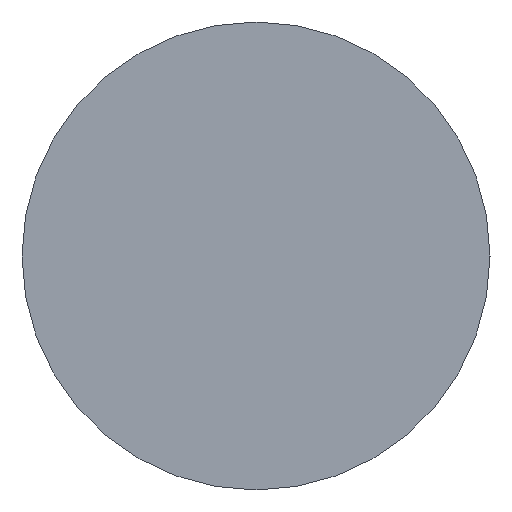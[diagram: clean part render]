
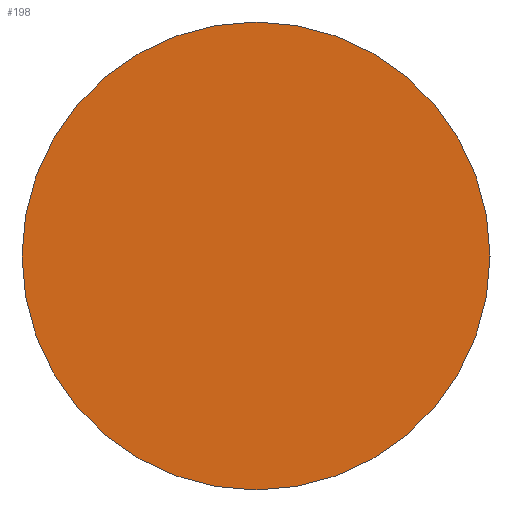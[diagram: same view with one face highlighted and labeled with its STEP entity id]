
A CAD part, left-side view. The second image highlights one B-rep face of the part: STEP entity #198.
In plain terms, the highlighted planar face has unit normal (-1, 0, 0).
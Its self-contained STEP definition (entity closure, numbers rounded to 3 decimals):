
#62 = ORIENTED_EDGE ( 'NONE', *, *, #102, .T. ) ;
#102 = EDGE_CURVE ( 'NONE', #318, #611, #513, .T. ) ;
#126 = DIRECTION ( 'NONE',  ( 1., 0., 0. ) ) ;
#169 = CARTESIAN_POINT ( 'NONE',  ( 0., 0., -19. ) ) ;
#174 = AXIS2_PLACEMENT_3D ( 'NONE', #384, #126, #394 ) ;
#182 = CARTESIAN_POINT ( 'NONE',  ( 0., 0., 0. ) ) ;
#185 = DIRECTION ( 'NONE',  ( -1., 0., 0. ) ) ;
#190 = DIRECTION ( 'NONE',  ( 0., 0., 1. ) ) ;
#192 = CARTESIAN_POINT ( 'NONE',  ( 0., 0., 0. ) ) ;
#198 = ADVANCED_FACE ( 'NONE', ( #272 ), #445, .F. ) ;
#202 = DIRECTION ( 'NONE',  ( -1., 0., 0. ) ) ;
#205 = DIRECTION ( 'NONE',  ( 0., 0., 1. ) ) ;
#272 = FACE_OUTER_BOUND ( 'NONE', #443, .T. ) ;
#311 = CARTESIAN_POINT ( 'NONE',  ( 0., 0., 19. ) ) ;
#318 = VERTEX_POINT ( 'NONE', #169 ) ;
#384 = CARTESIAN_POINT ( 'NONE',  ( 0., 0., 0. ) ) ;
#394 = DIRECTION ( 'NONE',  ( 0., 0., -1. ) ) ;
#439 = AXIS2_PLACEMENT_3D ( 'NONE', #182, #185, #190 ) ;
#443 = EDGE_LOOP ( 'NONE', ( #499, #62 ) ) ;
#445 = PLANE ( 'NONE',  #174 ) ;
#462 = CIRCLE ( 'NONE', #439, 19. ) ;
#499 = ORIENTED_EDGE ( 'NONE', *, *, #571, .T. ) ;
#513 = CIRCLE ( 'NONE', #629, 19. ) ;
#571 = EDGE_CURVE ( 'NONE', #611, #318, #462, .T. ) ;
#611 = VERTEX_POINT ( 'NONE', #311 ) ;
#629 = AXIS2_PLACEMENT_3D ( 'NONE', #192, #202, #205 ) ;
